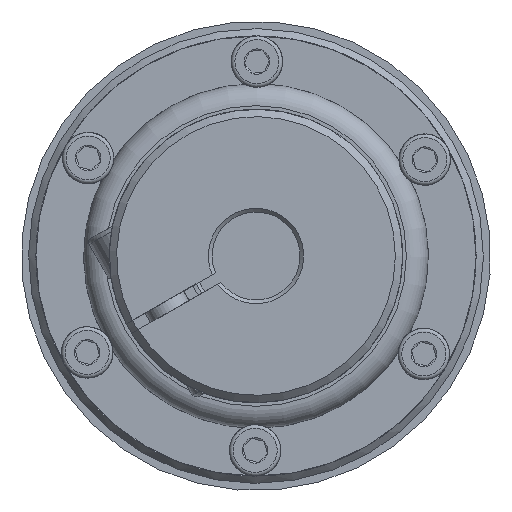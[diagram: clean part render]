
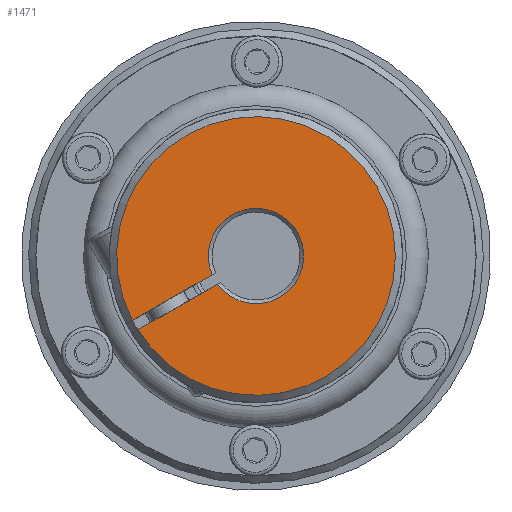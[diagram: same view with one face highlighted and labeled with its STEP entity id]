
A CAD part, left-side view. The second image highlights one B-rep face of the part: STEP entity #1471.
In plain terms, the highlighted planar face has unit normal (-1, 0, 0) as drawn and (0, 0, -1) by its records, which use the part's own axes.
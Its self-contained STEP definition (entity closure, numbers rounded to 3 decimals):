
#1471 = ADVANCED_FACE( '', ( #2859 ), #2860, .T. );
#2859 = FACE_OUTER_BOUND( '', #4154, .T. );
#2860 = PLANE( '', #4155 );
#4154 = EDGE_LOOP( '', ( #6608, #6609, #6610, #6611 ) );
#4155 = AXIS2_PLACEMENT_3D( '', #6612, #6613, #6614 );
#6608 = ORIENTED_EDGE( '', *, *, #7657, .T. );
#6609 = ORIENTED_EDGE( '', *, *, #7095, .T. );
#6610 = ORIENTED_EDGE( '', *, *, #7380, .F. );
#6611 = ORIENTED_EDGE( '', *, *, #7322, .T. );
#6612 = CARTESIAN_POINT( '', ( 0., 0., 0. ) );
#6613 = DIRECTION( '', ( 0., 0., -1. ) );
#6614 = DIRECTION( '', ( -1., 0., 0. ) );
#7095 = EDGE_CURVE( '', #8255, #8257, #8259, .F. );
#7322 = EDGE_CURVE( '', #8601, #8599, #8602, .T. );
#7380 = EDGE_CURVE( '', #8601, #8257, #8681, .T. );
#7657 = EDGE_CURVE( '', #8599, #8255, #9027, .T. );
#8255 = VERTEX_POINT( '', #10092 );
#8257 = VERTEX_POINT( '', #10097 );
#8259 = CIRCLE( '', #10102, 6.5 );
#8599 = VERTEX_POINT( '', #10612 );
#8601 = VERTEX_POINT( '', #10617 );
#8602 = CIRCLE( '', #10618, 19. );
#8681 = LINE( '', #10742, #10743 );
#9027 = LINE( '', #11396, #11397 );
#10092 = CARTESIAN_POINT( '', ( -6.457, -0.75, 0. ) );
#10097 = CARTESIAN_POINT( '', ( -6.457, 0.75, 0. ) );
#10102 = AXIS2_PLACEMENT_3D( '', #11929, #11930, #11931 );
#10612 = CARTESIAN_POINT( '', ( -18.985, -0.75, 0. ) );
#10617 = CARTESIAN_POINT( '', ( -18.985, 0.75, 0. ) );
#10618 = AXIS2_PLACEMENT_3D( '', #12247, #12248, #12249 );
#10742 = CARTESIAN_POINT( '', ( -20., 0.75, 0. ) );
#10743 = VECTOR( '', #12312, 1000. );
#11396 = CARTESIAN_POINT( '', ( -20., -0.75, 0. ) );
#11397 = VECTOR( '', #12579, 1000. );
#11929 = CARTESIAN_POINT( '', ( 0., 0., 0. ) );
#11930 = DIRECTION( '', ( 0., 0., -1. ) );
#11931 = DIRECTION( '', ( -1., 0., 0. ) );
#12247 = CARTESIAN_POINT( '', ( 0., 0., 0. ) );
#12248 = DIRECTION( '', ( 0., 0., -1. ) );
#12249 = DIRECTION( '', ( -1., 0., 0. ) );
#12312 = DIRECTION( '', ( 1., 0., 0. ) );
#12579 = DIRECTION( '', ( 1., 0., 0. ) );
